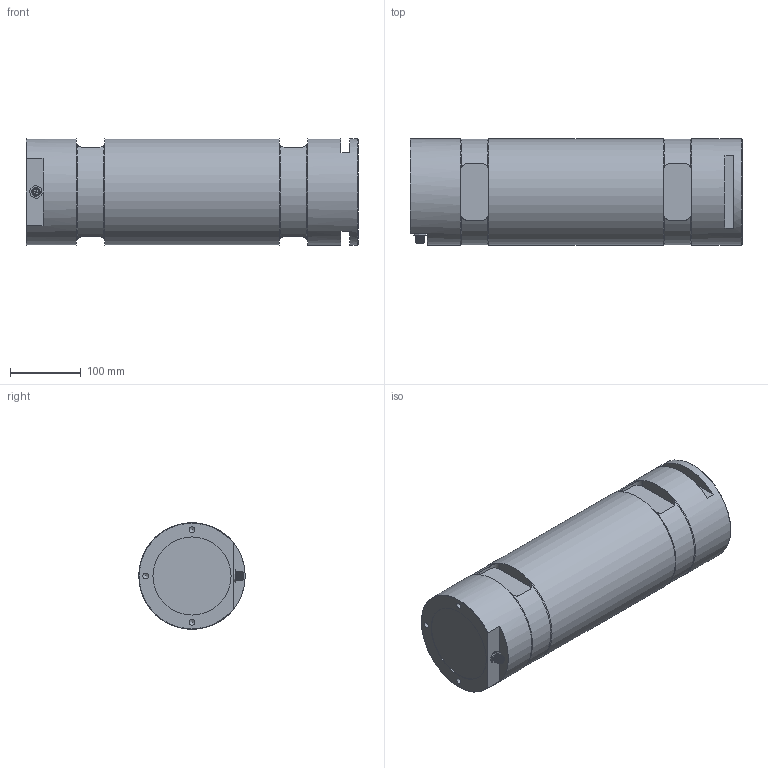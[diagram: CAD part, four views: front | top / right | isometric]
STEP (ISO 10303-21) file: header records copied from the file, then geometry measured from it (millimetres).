
FILE_DESCRIPTION(/* description */ ('Alibre Inc.'),/* implementation_level */ '2;1');
FILE_NAME(/* name */ 'export-AEC3C96E-B907-473C-A8E5-5F8280D7C5A6',/* time_stamp */ '2021-02-24T11:05:16+01:00',/* author */ (''),/* organization */ (''),/* preprocessor_version */ 'ST-DEVELOPER v17',/* originating_system */ 'Alibre',/* authorisation */ '');
FILE_SCHEMA (('CONFIG_CONTROL_DESIGN'));
Length unit declared in the file: millimetre
Bounding box: 468 x 150 x 150 mm (x, y, z)
Volume: 8139763.9 mm3; surface area: 428056.9 mm2
Topology: 7 solids, 8 shells, 236 faces, 521 edges, 308 vertices
Faces by surface type: cylinder 81, cone 76, plane 69, torus 10
Full cylindrical faces by diameter (mm): 0.5 x10, 8 x2, 8.376 x3, 9.026 x2, 10 x1, 11 x1, 11.5 x1, 12 x21, 13 x2, 14.5 x1, 110 x1, 150 x3
Entity records: 5728 total; most frequent: CARTESIAN_POINT 1309, ORIENTED_EDGE 800, DIRECTION 734, EDGE_CURVE 394, FACE_BOUND 365, EDGE_LOOP 360, AXIS2_PLACEMENT_3D 344, VERTEX_POINT 291
